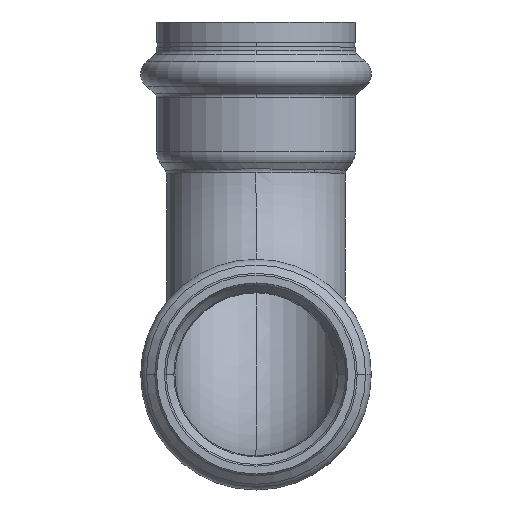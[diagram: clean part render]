
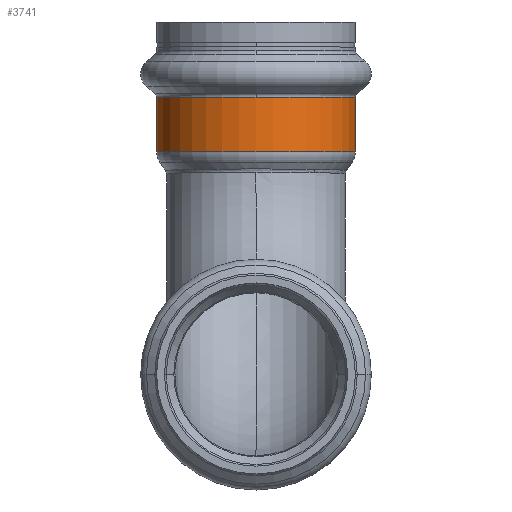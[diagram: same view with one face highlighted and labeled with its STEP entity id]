
A CAD part, top view. The second image highlights one B-rep face of the part: STEP entity #3741.
In plain terms, the highlighted cylindrical face has radius 19.15 mm (diameter 38.3 mm), a partial arc.
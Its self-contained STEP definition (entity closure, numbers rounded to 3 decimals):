
#242 = VERTEX_POINT ( 'NONE', #842 ) ;
#274 = DIRECTION ( 'NONE',  ( 0., 0., 1. ) ) ;
#291 = AXIS2_PLACEMENT_3D ( 'NONE', #4074, #1682, #274 ) ;
#456 = CARTESIAN_POINT ( 'NONE',  ( -19.15, 53.507, 0. ) ) ;
#566 = VERTEX_POINT ( 'NONE', #456 ) ;
#588 = DIRECTION ( 'NONE',  ( 0., 1., 0. ) ) ;
#626 = VECTOR ( 'NONE', #1019, 1000. ) ;
#712 = LINE ( 'NONE', #1011, #626 ) ;
#842 = CARTESIAN_POINT ( 'NONE',  ( 0., 53.507, 19.15 ) ) ;
#1011 = CARTESIAN_POINT ( 'NONE',  ( 19.15, 62.626, 0. ) ) ;
#1019 = DIRECTION ( 'NONE',  ( 0., 1., 0. ) ) ;
#1023 = VECTOR ( 'NONE', #588, 1000. ) ;
#1092 = CARTESIAN_POINT ( 'NONE',  ( 19.15, 53.507, 0. ) ) ;
#1120 = ORIENTED_EDGE ( 'NONE', *, *, #2650, .T. ) ;
#1567 = ORIENTED_EDGE ( 'NONE', *, *, #2792, .F. ) ;
#1592 = CARTESIAN_POINT ( 'NONE',  ( -19.15, 62.626, 0. ) ) ;
#1601 = EDGE_CURVE ( 'NONE', #2961, #2635, #712, .T. ) ;
#1682 = DIRECTION ( 'NONE',  ( 0., -1., 0. ) ) ;
#1718 = VERTEX_POINT ( 'NONE', #1931 ) ;
#1922 = EDGE_CURVE ( 'NONE', #242, #566, #2280, .T. ) ;
#1931 = CARTESIAN_POINT ( 'NONE',  ( -19.15, 43., 0. ) ) ;
#2067 = EDGE_CURVE ( 'NONE', #1718, #566, #2130, .T. ) ;
#2103 = CARTESIAN_POINT ( 'NONE',  ( 19.15, 43., 0. ) ) ;
#2130 = LINE ( 'NONE', #1592, #1023 ) ;
#2240 = AXIS2_PLACEMENT_3D ( 'NONE', #2412, #2401, #2393 ) ;
#2280 = CIRCLE ( 'NONE', #291, 19.15 ) ;
#2391 = CIRCLE ( 'NONE', #2240, 19.15 ) ;
#2393 = DIRECTION ( 'NONE',  ( 0., 0., 1. ) ) ;
#2395 = DIRECTION ( 'NONE',  ( 0., 1., 0. ) ) ;
#2401 = DIRECTION ( 'NONE',  ( 0., -1., 0. ) ) ;
#2412 = CARTESIAN_POINT ( 'NONE',  ( 0., 53.507, 0. ) ) ;
#2424 = DIRECTION ( 'NONE',  ( 1., 0., 0. ) ) ;
#2430 = DIRECTION ( 'NONE',  ( 0., -1., 0. ) ) ;
#2436 = CARTESIAN_POINT ( 'NONE',  ( 0., 43., 0. ) ) ;
#2514 = CIRCLE ( 'NONE', #4615, 19.15 ) ;
#2635 = VERTEX_POINT ( 'NONE', #1092 ) ;
#2650 = EDGE_CURVE ( 'NONE', #2635, #242, #2391, .T. ) ;
#2792 = EDGE_CURVE ( 'NONE', #2961, #1718, #2514, .T. ) ;
#2827 = ORIENTED_EDGE ( 'NONE', *, *, #2067, .F. ) ;
#2834 = ORIENTED_EDGE ( 'NONE', *, *, #1601, .T. ) ;
#2961 = VERTEX_POINT ( 'NONE', #2103 ) ;
#3327 = CYLINDRICAL_SURFACE ( 'NONE', #3795, 19.15 ) ;
#3436 = FACE_OUTER_BOUND ( 'NONE', #4058, .T. ) ;
#3741 = ADVANCED_FACE ( 'NONE', ( #3436 ), #3327, .T. ) ;
#3795 = AXIS2_PLACEMENT_3D ( 'NONE', #4369, #2395, #4647 ) ;
#3895 = ORIENTED_EDGE ( 'NONE', *, *, #1922, .T. ) ;
#4058 = EDGE_LOOP ( 'NONE', ( #2827, #1567, #2834, #1120, #3895 ) ) ;
#4074 = CARTESIAN_POINT ( 'NONE',  ( 0., 53.507, 0. ) ) ;
#4369 = CARTESIAN_POINT ( 'NONE',  ( 0., 62.626, 0. ) ) ;
#4615 = AXIS2_PLACEMENT_3D ( 'NONE', #2436, #2430, #2424 ) ;
#4647 = DIRECTION ( 'NONE',  ( 1., 0., 0. ) ) ;
